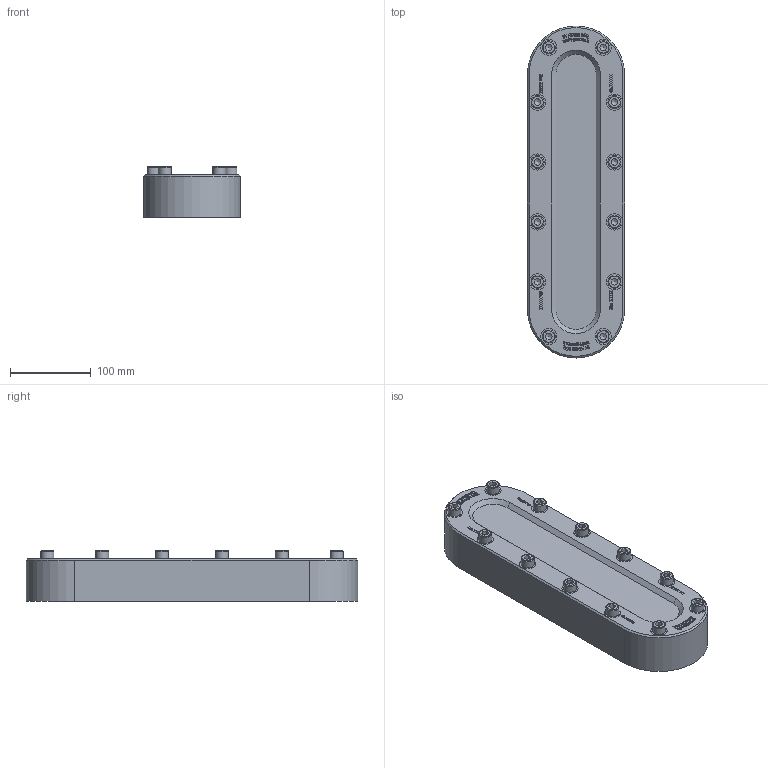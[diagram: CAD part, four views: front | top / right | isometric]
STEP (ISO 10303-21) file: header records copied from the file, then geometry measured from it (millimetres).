
FILE_DESCRIPTION(/* description */ (''),/* implementation_level */ '2;1');
FILE_NAME(/* name */ 'W:\Konstruktion_ACI\338\_STEP\338-410.stp',/* time_stamp */ '2022-03-11T14:25:32+01:00',/* author */ ('koslowksi'),/* organization */ (''),/* preprocessor_version */ 'ST-DEVELOPER v16.1',/* originating_system */ 'Autodesk Inventor 2016',/* authorisation */ '');
FILE_SCHEMA (('AUTOMOTIVE_DESIGN { 1 0 10303 214 3 1 1 }'));
Length unit declared in the file: millimetre
Products named in the file (1): 338-410
Bounding box: 120 x 410 x 62.9 mm (x, y, z)
Volume: 2023895.8 mm3; surface area: 167714.7 mm2
Topology: 1 solids, 1 shells, 1436 faces, 3885 edges, 2581 vertices
Faces by surface type: plane 942, bspline 438, cylinder 28, cone 16, torus 12
Full cylindrical faces by diameter (mm): 16 x12, 20 x12
Entity records: 47876 total; most frequent: CARTESIAN_POINT 13669, ORIENTED_EDGE 7650, DIRECTION 4949, EDGE_CURVE 3825, LINE 2803, VECTOR 2803, VERTEX_POINT 2569, EDGE_LOOP 1614
